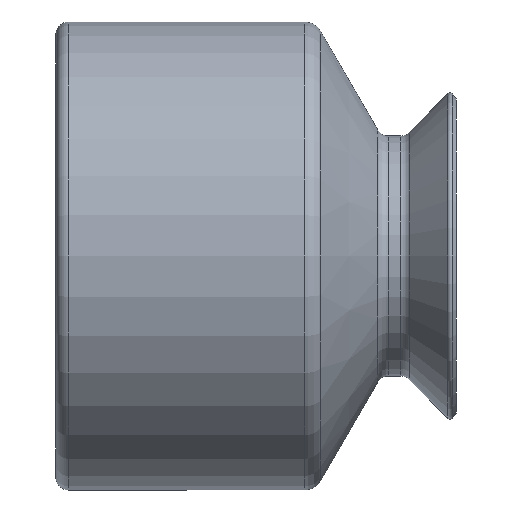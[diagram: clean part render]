
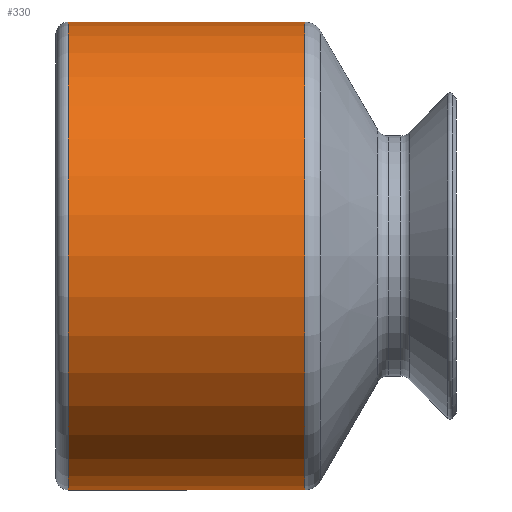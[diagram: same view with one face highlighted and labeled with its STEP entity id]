
A CAD part, left-side view. The second image highlights one B-rep face of the part: STEP entity #330.
In plain terms, the highlighted cylindrical face has radius 3.8 mm (diameter 7.6 mm), a partial arc.
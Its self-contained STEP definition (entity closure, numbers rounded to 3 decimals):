
#49 = CARTESIAN_POINT ( 'NONE',  ( 0., -4.04, -3.8 ) ) ;
#88 = EDGE_CURVE ( 'NONE', #1189, #360, #868, .T. ) ;
#121 = DIRECTION ( 'NONE',  ( 0., 1., 0. ) ) ;
#168 = LINE ( 'NONE', #986, #635 ) ;
#171 = LINE ( 'NONE', #743, #489 ) ;
#233 = EDGE_CURVE ( 'NONE', #669, #766, #979, .T. ) ;
#248 = CARTESIAN_POINT ( 'NONE',  ( 0., -0.2, 3.8 ) ) ;
#251 = DIRECTION ( 'NONE',  ( 0., 1., 0. ) ) ;
#288 = AXIS2_PLACEMENT_3D ( 'NONE', #1199, #344, #448 ) ;
#291 = EDGE_LOOP ( 'NONE', ( #624, #403, #794, #1114 ) ) ;
#330 = ADVANCED_FACE ( 'NONE', ( #935 ), #1125, .T. ) ;
#344 = DIRECTION ( 'NONE',  ( 0., 1., 0. ) ) ;
#360 = VERTEX_POINT ( 'NONE', #744 ) ;
#365 = DIRECTION ( 'NONE',  ( 0., 1., 0. ) ) ;
#403 = ORIENTED_EDGE ( 'NONE', *, *, #88, .T. ) ;
#448 = DIRECTION ( 'NONE',  ( 0., 0., 1. ) ) ;
#489 = VECTOR ( 'NONE', #365, 1000. ) ;
#506 = CARTESIAN_POINT ( 'NONE',  ( 0., -4.04, 0. ) ) ;
#560 = AXIS2_PLACEMENT_3D ( 'NONE', #569, #121, #852 ) ;
#569 = CARTESIAN_POINT ( 'NONE',  ( 0., 0., 0. ) ) ;
#572 = CARTESIAN_POINT ( 'NONE',  ( 0., -0.2, -3.8 ) ) ;
#595 = DIRECTION ( 'NONE',  ( 0., 0., 1. ) ) ;
#624 = ORIENTED_EDGE ( 'NONE', *, *, #1224, .F. ) ;
#635 = VECTOR ( 'NONE', #251, 1000. ) ;
#669 = VERTEX_POINT ( 'NONE', #572 ) ;
#684 = DIRECTION ( 'NONE',  ( 0., 1., 0. ) ) ;
#743 = CARTESIAN_POINT ( 'NONE',  ( 0., 0., 3.8 ) ) ;
#744 = CARTESIAN_POINT ( 'NONE',  ( 0., -4.04, 3.8 ) ) ;
#766 = VERTEX_POINT ( 'NONE', #248 ) ;
#794 = ORIENTED_EDGE ( 'NONE', *, *, #940, .T. ) ;
#852 = DIRECTION ( 'NONE',  ( 0., 0., 1. ) ) ;
#868 = CIRCLE ( 'NONE', #1092, 3.8 ) ;
#935 = FACE_OUTER_BOUND ( 'NONE', #291, .T. ) ;
#940 = EDGE_CURVE ( 'NONE', #360, #766, #171, .T. ) ;
#979 = CIRCLE ( 'NONE', #288, 3.8 ) ;
#986 = CARTESIAN_POINT ( 'NONE',  ( 0., 0., -3.8 ) ) ;
#1092 = AXIS2_PLACEMENT_3D ( 'NONE', #506, #684, #595 ) ;
#1114 = ORIENTED_EDGE ( 'NONE', *, *, #233, .F. ) ;
#1125 = CYLINDRICAL_SURFACE ( 'NONE', #560, 3.8 ) ;
#1189 = VERTEX_POINT ( 'NONE', #49 ) ;
#1199 = CARTESIAN_POINT ( 'NONE',  ( 0., -0.2, 0. ) ) ;
#1224 = EDGE_CURVE ( 'NONE', #1189, #669, #168, .T. ) ;
